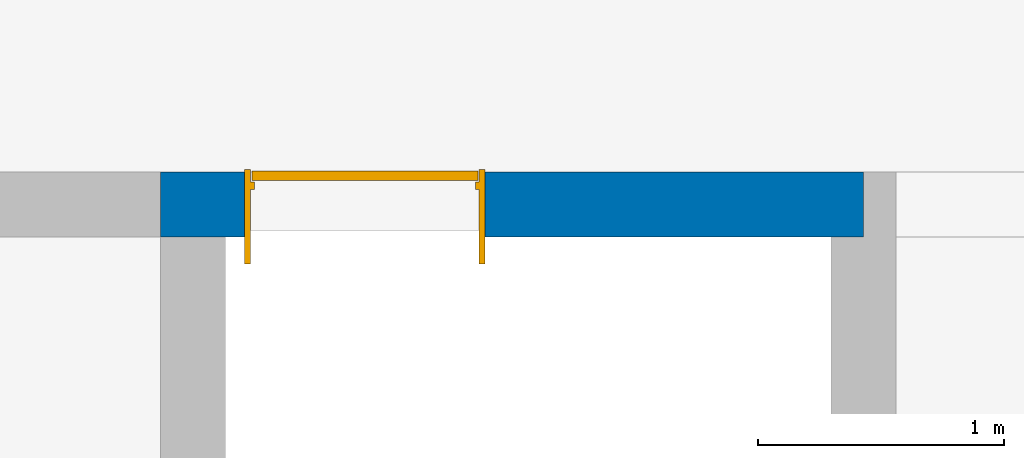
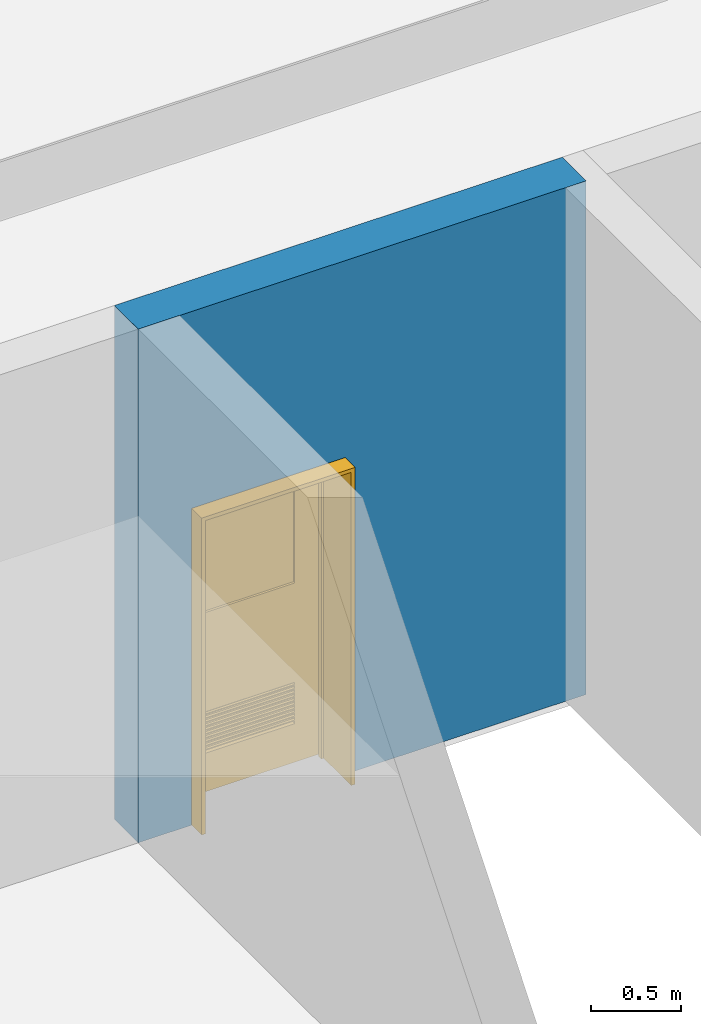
# One storey, part 4 of 11: 1 door, 1 wall, 1 opening.
"""IFC4X3 building model written with IfcOpenShell, lengths in millimetres."""

from ifc_helpers import new_model, entity, si_unit, converted_unit, derived_unit, direction, frame, frame_2d, origin, place, context, subcontext, project, spatial, rectangle, extrude, faceted_brep, source, transform, mapped, material, layer, layer_set, constituent, constituent_set, type_object, type_shapes, element, fill, save


model = new_model("IFC4X3")

# Units and contexts
model_context = context("Model", 3, precision=0.01, world=origin(), true_north=direction((6.12303176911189e-17, 1.0)))
body_context = subcontext(model_context, "Body", "Model", "MODEL_VIEW")
ifc_project = project(units=[si_unit("LENGTHUNIT", "METRE", prefix="MILLI"), si_unit("AREAUNIT", "SQUARE_METRE"), si_unit("VOLUMEUNIT", "CUBIC_METRE"), converted_unit("PLANEANGLEUNIT", "DEGREE", entity("IfcPlaneAngleMeasure", 0.0174532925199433), si_unit("PLANEANGLEUNIT", "RADIAN"), dimensions=[0, 0, 0, 0, 0, 0, 0]), si_unit("MASSUNIT", "GRAM", prefix="KILO"), derived_unit("MASSDENSITYUNIT", [(si_unit("MASSUNIT", "GRAM", prefix="KILO"), 1), (si_unit("LENGTHUNIT", "METRE"), -3)]), derived_unit("IONCONCENTRATIONUNIT", [(si_unit("MASSUNIT", "GRAM", prefix="KILO"), 1), (si_unit("LENGTHUNIT", "METRE"), -3)]), derived_unit("MOMENTOFINERTIAUNIT", [(si_unit("LENGTHUNIT", "METRE"), 4)]), si_unit("TIMEUNIT", "SECOND"), si_unit("FREQUENCYUNIT", "HERTZ"), si_unit("THERMODYNAMICTEMPERATUREUNIT", "DEGREE_CELSIUS"), derived_unit("THERMALTRANSMITTANCEUNIT", [(si_unit("MASSUNIT", "GRAM", prefix="KILO"), 1), (si_unit("THERMODYNAMICTEMPERATUREUNIT", "KELVIN"), -1), (si_unit("TIMEUNIT", "SECOND"), -3)]), derived_unit("THERMALCONDUCTANCEUNIT", [(si_unit("MASSUNIT", "GRAM", prefix="KILO"), 1), (si_unit("THERMODYNAMICTEMPERATUREUNIT", "KELVIN"), -1), (si_unit("TIMEUNIT", "SECOND"), -3), (si_unit("LENGTHUNIT", "METRE"), 1)]), derived_unit("VOLUMETRICFLOWRATEUNIT", [(si_unit("LENGTHUNIT", "METRE", prefix="DECI"), 3), (si_unit("TIMEUNIT", "SECOND"), -1)]), derived_unit("MASSFLOWRATEUNIT", [(si_unit("MASSUNIT", "GRAM", prefix="KILO"), 1), (si_unit("TIMEUNIT", "SECOND"), -1)]), derived_unit("ROTATIONALFREQUENCYUNIT", [(si_unit("TIMEUNIT", "SECOND"), -1)]), si_unit("ELECTRICCURRENTUNIT", "AMPERE"), si_unit("ELECTRICVOLTAGEUNIT", "VOLT"), si_unit("POWERUNIT", "WATT"), si_unit("FORCEUNIT", "NEWTON", prefix="KILO"), si_unit("ILLUMINANCEUNIT", "LUX"), si_unit("LUMINOUSFLUXUNIT", "LUMEN"), si_unit("LUMINOUSINTENSITYUNIT", "CANDELA"), si_unit("ENERGYUNIT", "JOULE"), derived_unit("USERDEFINED", [(si_unit("MASSUNIT", "GRAM", prefix="KILO"), -1), (si_unit("LENGTHUNIT", "METRE"), -2), (si_unit("TIMEUNIT", "SECOND"), 3), (si_unit("LUMINOUSFLUXUNIT", "LUMEN"), 1)]), derived_unit("USERDEFINED", [(si_unit("MASSUNIT", "GRAM", prefix="KILO"), 1), (si_unit("TIMEUNIT", "SECOND"), -3), (si_unit("LENGTHUNIT", "METRE"), 3), (si_unit("ELECTRICCURRENTUNIT", "AMPERE"), -2)]), derived_unit("SOUNDPOWERUNIT", [(si_unit("MASSUNIT", "GRAM", prefix="KILO"), 1), (si_unit("TIMEUNIT", "SECOND"), -3), (si_unit("LENGTHUNIT", "METRE"), 2)]), derived_unit("SOUNDPRESSUREUNIT", [(si_unit("MASSUNIT", "GRAM", prefix="KILO"), 1), (si_unit("LENGTHUNIT", "METRE"), -1), (si_unit("TIMEUNIT", "SECOND"), -2)]), derived_unit("LINEARVELOCITYUNIT", [(si_unit("LENGTHUNIT", "METRE"), 1), (si_unit("TIMEUNIT", "SECOND"), -1)]), si_unit("PRESSUREUNIT", "PASCAL"), derived_unit("USERDEFINED", [(si_unit("MASSUNIT", "GRAM", prefix="KILO"), 1), (si_unit("LENGTHUNIT", "METRE"), -2), (si_unit("TIMEUNIT", "SECOND"), -2)]), derived_unit("LINEARFORCEUNIT", [(si_unit("MASSUNIT", "GRAM", prefix="KILO"), 1), (si_unit("TIMEUNIT", "SECOND"), -2)]), derived_unit("PLANARFORCEUNIT", [(si_unit("MASSUNIT", "GRAM", prefix="KILO"), 1), (si_unit("LENGTHUNIT", "METRE"), -1), (si_unit("TIMEUNIT", "SECOND"), -2)]), derived_unit("SPECIFICHEATCAPACITYUNIT", [(si_unit("THERMODYNAMICTEMPERATUREUNIT", "KELVIN"), -1), (si_unit("LENGTHUNIT", "METRE"), 2), (si_unit("TIMEUNIT", "SECOND"), -2)]), derived_unit("HEATFLUXDENSITYUNIT", [(si_unit("MASSUNIT", "GRAM", prefix="KILO"), 1), (si_unit("TIMEUNIT", "SECOND"), -3)]), derived_unit("HEATINGVALUEUNIT", [(si_unit("LENGTHUNIT", "METRE"), 2), (si_unit("TIMEUNIT", "SECOND"), -2)]), derived_unit("VAPORPERMEABILITYUNIT", [(si_unit("LENGTHUNIT", "METRE"), -1), (si_unit("TIMEUNIT", "SECOND"), 1)]), derived_unit("DYNAMICVISCOSITYUNIT", [(si_unit("MASSUNIT", "GRAM", prefix="KILO"), 1), (si_unit("TIMEUNIT", "SECOND"), -1), (si_unit("LENGTHUNIT", "METRE"), -1)]), derived_unit("THERMALEXPANSIONCOEFFICIENTUNIT", [(si_unit("THERMODYNAMICTEMPERATUREUNIT", "KELVIN"), -1)]), derived_unit("MODULUSOFELASTICITYUNIT", [(si_unit("MASSUNIT", "GRAM", prefix="KILO"), 1), (si_unit("LENGTHUNIT", "METRE"), -1), (si_unit("TIMEUNIT", "SECOND"), -2)]), derived_unit("ISOTHERMALMOISTURECAPACITYUNIT", [(si_unit("MASSUNIT", "GRAM", prefix="KILO"), -1), (si_unit("LENGTHUNIT", "METRE"), 3)]), derived_unit("MOISTUREDIFFUSIVITYUNIT", [(si_unit("TIMEUNIT", "SECOND"), -1), (si_unit("LENGTHUNIT", "METRE"), 2)]), derived_unit("AREADENSITYUNIT", [(si_unit("MASSUNIT", "GRAM", prefix="KILO"), 1), (si_unit("LENGTHUNIT", "METRE"), 2)]), derived_unit("MASSPERLENGTHUNIT", [(si_unit("MASSUNIT", "GRAM", prefix="KILO"), 1), (si_unit("LENGTHUNIT", "METRE"), -1)]), derived_unit("THERMALRESISTANCEUNIT", [(si_unit("MASSUNIT", "GRAM", prefix="KILO"), -1), (si_unit("TIMEUNIT", "SECOND"), 3), (si_unit("THERMODYNAMICTEMPERATUREUNIT", "KELVIN"), 1)]), derived_unit("ACCELERATIONUNIT", [(si_unit("LENGTHUNIT", "METRE"), 1), (si_unit("TIMEUNIT", "SECOND"), -2)]), derived_unit("ANGULARVELOCITYUNIT", [(si_unit("TIMEUNIT", "SECOND"), -1), (si_unit("PLANEANGLEUNIT", "RADIAN"), 1)]), derived_unit("LINEARSTIFFNESSUNIT", [(si_unit("MASSUNIT", "GRAM", prefix="KILO"), 1), (si_unit("TIMEUNIT", "SECOND"), -2)]), derived_unit("WARPINGCONSTANTUNIT", [(si_unit("LENGTHUNIT", "METRE"), 6)]), derived_unit("LINEARMOMENTUNIT", [(si_unit("MASSUNIT", "GRAM", prefix="KILO"), 1), (si_unit("LENGTHUNIT", "METRE"), 1), (si_unit("TIMEUNIT", "SECOND"), -2)]), derived_unit("TORQUEUNIT", [(si_unit("MASSUNIT", "GRAM", prefix="KILO"), 1), (si_unit("LENGTHUNIT", "METRE"), 2), (si_unit("TIMEUNIT", "SECOND"), -2)])], contexts=[model_context])

# Site, building, storey
site_placement = place(None, origin())
site = spatial("IfcSite", under=ifc_project, at=site_placement, Name="Default", CompositionType="ELEMENT")
building_placement = place(site_placement, origin())
building = spatial("IfcBuilding", under=site, at=building_placement, Name="事務所ビル", CompositionType="ELEMENT")
storey_placement = place(building_placement, frame((0.0, 0.0, 8000.0)))
storey = spatial("IfcBuildingStorey", under=building, at=storey_placement, Name="3FL", CompositionType="ELEMENT", Elevation=8000.0)

# Wall, opening, door
ifc_material_1 = material(Name="せっこうボード", Category="一般")
ifc_layer_1 = layer(ifc_material_1, 15.0, Name="せっこうボード", Category="一般")
ifc_material_2 = material(Name="合板", Category="一般")
ifc_layer_2 = layer(ifc_material_2, 12.0, Name="合板", Category="一般")
ifc_material_3 = material(Name="天然木材", Category="一般")
ifc_layer_3 = layer(ifc_material_3, 210.0, Name="天然木材", Category="一般")
ifc_layer_4 = layer(ifc_material_2, 12.0, Name="合板", Category="一般")
ifc_layer_5 = layer(ifc_material_1, 15.0, Name="せっこうボード", Category="一般")
ifc_layer_set = layer_set([ifc_layer_1, ifc_layer_2, ifc_layer_3, ifc_layer_4, ifc_layer_5], Name="標準壁:GB-R15_構造用合板12_木210_構造用合板12_GB-R15")
wall_type = type_object("IfcWallType", Name="標準壁:GB-R15_構造用合板12_木210_構造用合板12_GB-R15", PredefinedType="STANDARD", material=ifc_layer_set)
wall_placement = place(storey_placement, frame((18978.0, 5460.0, 0.0)))
wall = element("IfcWall", 1, at=wall_placement, inside=storey, type_object=wall_type, material=ifc_layer_set, Name="標準壁:GB-R15_構造用合板12_木210_構造用合板12_GB-R15", ObjectType="標準壁:GB-R15_構造用合板12_木210_構造用合板12_GB-R15", PredefinedType="NOTDEFINED", context=body_context, shape_type="SweptSolid", body=[
    extrude(rectangle(XDim=2862.00000000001, YDim=264.000000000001, at=frame_2d((1431.0, 2.55795384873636e-13), x_axis=(-1.0, 0.0))), origin(), (0.0, 0.0, 1.0), 3470.0),
])
opening_placement = place(wall_placement, frame((342.0, -132.0, 0.0)))
opening = element("IfcOpeningElement", 2, at=opening_placement, cuts=wall, Name="鋼製_一般枠_片開き 1:鋼製_一般枠_片開き 1:1", PredefinedType="OPENING", context=body_context, shape_type="SweptSolid", body=[
    extrude(rectangle(XDim=2140.0, YDim=979.999999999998, at=frame_2d((1070.0, 490.0), x_axis=(-1.0, 0.0))), frame((0.0, 0.0, 0.0), z_axis=(0.0, 1.0, 0.0), x_axis=(0.0, 0.0, 1.0)), (0.0, 0.0, 1.0), 264.0),
])
ifc_material_4 = material(Name="金属 - アルミニウム", Category="未設定")
ifc_constituent_1 = constituent(ifc_material_4, Name="金属 - アルミニウム", Category="未設定")
ifc_material_5 = material(Name="塗装 - 白", Category="未設定")
ifc_constituent_2 = constituent(ifc_material_5, Name="塗装 - 白", Category="未設定")
ifc_material_6 = material(Name="ガラス", Category="ガラス")
ifc_constituent_3 = constituent(ifc_material_6, Name="ガラス", Category="ガラス")
ifc_constituent_set_1 = constituent_set(constituents=[ifc_constituent_1, ifc_constituent_2, ifc_constituent_3])
ifc_constituent_4 = constituent(ifc_material_4, Name="金属 - アルミニウム", Category="未設定")
ifc_constituent_5 = constituent(ifc_material_5, Name="パネル", Category="未設定")
ifc_constituent_6 = constituent(ifc_material_6, Name="ガラス", Category="ガラス")
ifc_constituent_7 = constituent(ifc_material_4, Name="フレーム/マリオン", Category="未設定")
ifc_constituent_set_2 = constituent_set(constituents=[ifc_constituent_4, ifc_constituent_5, ifc_constituent_6, ifc_constituent_7])
door_type = type_object("IfcDoorType", Name="鋼製_一般枠_片開き 1:鋼製_一般枠_片開き 1", OperationType="SINGLE_SWING_LEFT", ParameterTakesPrecedence=False, PredefinedType="DOOR", material=ifc_constituent_set_2)
shared_shape = source(origin(), body_context, "Body", "Brep", [
    faceted_brep([(790.0, 269.0, 493.333333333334), (790.0, 269.0, 498.333333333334), (790.0, 239.0, 513.333333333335), (790.0, 229.0, 508.333333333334), (790.0, 229.0, 503.333333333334), (790.0, 239.0, 508.333333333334), (190.0, 269.0, 493.333333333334), (190.0, 239.0, 508.333333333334), (190.0, 229.0, 503.333333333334), (190.0, 229.0, 508.333333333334), (190.0, 239.0, 513.333333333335), (190.0, 269.0, 498.333333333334)], [[[0, 1, 2, 3, 4, 5]], [[6, 7, 8, 9, 10, 11]], [[5, 7, 6, 0]], [[4, 8, 7, 5]], [[3, 9, 8, 4]], [[2, 10, 9, 3]], [[1, 11, 10, 2]], [[0, 6, 11, 1]]]),
    faceted_brep([(790.0, 269.0, 466.666666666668), (790.0, 269.0, 471.666666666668), (790.0, 239.0, 486.666666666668), (790.0, 229.0, 481.666666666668), (790.0, 229.0, 476.666666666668), (790.0, 239.0, 481.666666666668), (190.0, 269.0, 466.666666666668), (190.0, 239.0, 481.666666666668), (190.0, 229.0, 476.666666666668), (190.0, 229.0, 481.666666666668), (190.0, 239.0, 486.666666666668), (190.0, 269.0, 471.666666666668)], [[[0, 1, 2, 3, 4, 5]], [[6, 7, 8, 9, 10, 11]], [[5, 7, 6, 0]], [[4, 8, 7, 5]], [[3, 9, 8, 4]], [[2, 10, 9, 3]], [[1, 11, 10, 2]], [[0, 6, 11, 1]]]),
    faceted_brep([(790.0, 269.0, 440.0), (790.0, 269.0, 445.0), (790.0, 239.0, 460.0), (790.0, 229.0, 455.0), (790.0, 229.0, 450.0), (790.0, 239.0, 455.0), (190.0, 269.0, 440.0), (190.0, 239.0, 455.0), (190.0, 229.0, 450.0), (190.0, 229.0, 455.0), (190.0, 239.0, 460.0), (190.0, 269.0, 445.0)], [[[0, 1, 2, 3, 4, 5]], [[6, 7, 8, 9, 10, 11]], [[5, 7, 6, 0]], [[4, 8, 7, 5]], [[3, 9, 8, 4]], [[2, 10, 9, 3]], [[1, 11, 10, 2]], [[0, 6, 11, 1]]]),
    faceted_brep([(790.0, 269.0, 413.333333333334), (790.0, 269.0, 418.333333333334), (790.0, 239.0, 433.333333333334), (790.0, 229.0, 428.333333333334), (790.0, 229.0, 423.333333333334), (790.0, 239.0, 428.333333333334), (190.0, 269.0, 413.333333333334), (190.0, 239.0, 428.333333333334), (190.0, 229.0, 423.333333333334), (190.0, 229.0, 428.333333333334), (190.0, 239.0, 433.333333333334), (190.0, 269.0, 418.333333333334)], [[[0, 1, 2, 3, 4, 5]], [[6, 7, 8, 9, 10, 11]], [[5, 7, 6, 0]], [[4, 8, 7, 5]], [[3, 9, 8, 4]], [[2, 10, 9, 3]], [[1, 11, 10, 2]], [[0, 6, 11, 1]]]),
    faceted_brep([(790.0, 269.0, 386.666666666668), (790.0, 269.0, 391.666666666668), (790.0, 239.0, 406.666666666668), (790.0, 229.0, 401.666666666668), (790.0, 229.0, 396.666666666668), (790.0, 239.0, 401.666666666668), (190.0, 269.0, 386.666666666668), (190.0, 239.0, 401.666666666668), (190.0, 229.0, 396.666666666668), (190.0, 229.0, 401.666666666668), (190.0, 239.0, 406.666666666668), (190.0, 269.0, 391.666666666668)], [[[0, 1, 2, 3, 4, 5]], [[6, 7, 8, 9, 10, 11]], [[5, 7, 6, 0]], [[4, 8, 7, 5]], [[3, 9, 8, 4]], [[2, 10, 9, 3]], [[1, 11, 10, 2]], [[0, 6, 11, 1]]]),
    faceted_brep([(790.0, 269.0, 360.0), (790.0, 269.0, 365.0), (790.0, 239.0, 380.0), (790.0, 229.0, 375.0), (790.0, 229.0, 370.0), (790.0, 239.0, 375.0), (190.0, 269.0, 360.0), (190.0, 239.0, 375.0), (190.0, 229.0, 370.0), (190.0, 229.0, 375.0), (190.0, 239.0, 380.0), (190.0, 269.0, 365.0)], [[[0, 1, 2, 3, 4, 5]], [[6, 7, 8, 9, 10, 11]], [[5, 7, 6, 0]], [[4, 8, 7, 5]], [[3, 9, 8, 4]], [[2, 10, 9, 3]], [[1, 11, 10, 2]], [[0, 6, 11, 1]]]),
    faceted_brep([(790.0, 269.0, 333.333333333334), (790.0, 269.0, 338.333333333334), (790.0, 239.0, 353.333333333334), (790.0, 229.0, 348.333333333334), (790.0, 229.0, 343.333333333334), (790.0, 239.0, 348.333333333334), (190.0, 269.0, 333.333333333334), (190.0, 239.0, 348.333333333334), (190.0, 229.0, 343.333333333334), (190.0, 229.0, 348.333333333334), (190.0, 239.0, 353.333333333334), (190.0, 269.0, 338.333333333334)], [[[0, 1, 2, 3, 4, 5]], [[6, 7, 8, 9, 10, 11]], [[5, 7, 6, 0]], [[4, 8, 7, 5]], [[3, 9, 8, 4]], [[2, 10, 9, 3]], [[1, 11, 10, 2]], [[0, 6, 11, 1]]]),
    faceted_brep([(790.0, 269.0, 306.666666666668), (790.0, 269.0, 311.666666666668), (790.0, 239.0, 326.666666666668), (790.0, 229.0, 321.666666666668), (790.0, 229.0, 316.666666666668), (790.0, 239.0, 321.666666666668), (190.0, 269.0, 306.666666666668), (190.0, 239.0, 321.666666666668), (190.0, 229.0, 316.666666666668), (190.0, 229.0, 321.666666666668), (190.0, 239.0, 326.666666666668), (190.0, 269.0, 311.666666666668)], [[[0, 1, 2, 3, 4, 5]], [[6, 7, 8, 9, 10, 11]], [[5, 7, 6, 0]], [[4, 8, 7, 5]], [[3, 9, 8, 4]], [[2, 10, 9, 3]], [[1, 11, 10, 2]], [[0, 6, 11, 1]]]),
    faceted_brep([(790.0, 269.0, 520.0), (790.0, 269.0, 525.0), (790.0, 239.0, 540.0), (790.0, 229.0, 535.0), (790.0, 229.0, 530.0), (790.0, 239.0, 535.0), (190.0, 269.0, 520.0), (190.0, 239.0, 535.0), (190.0, 229.0, 530.0), (190.0, 229.0, 535.0), (190.0, 239.0, 540.0), (190.0, 269.0, 525.0)], [[[0, 1, 2, 3, 4, 5]], [[6, 7, 8, 9, 10, 11]], [[5, 7, 6, 0]], [[4, 8, 7, 5]], [[3, 9, 8, 4]], [[2, 10, 9, 3]], [[1, 11, 10, 2]], [[0, 6, 11, 1]]]),
    faceted_brep([(790.0, 269.0, 280.0), (790.0, 269.0, 285.0), (790.0, 239.0, 300.0), (790.0, 229.0, 295.0), (790.0, 229.0, 290.0), (790.0, 239.0, 295.0), (190.0, 269.0, 280.0), (190.0, 239.0, 295.0), (190.0, 229.0, 290.0), (190.0, 229.0, 295.0), (190.0, 239.0, 300.0), (190.0, 269.0, 285.0)], [[[0, 1, 2, 3, 4, 5]], [[6, 7, 8, 9, 10, 11]], [[5, 7, 6, 0]], [[4, 8, 7, 5]], [[3, 9, 8, 4]], [[2, 10, 9, 3]], [[1, 11, 10, 2]], [[0, 6, 11, 1]]]),
    faceted_brep([(800.0, 269.0, 260.0), (180.0, 269.0, 260.0), (180.0, 269.0, 560.0), (800.0, 269.0, 560.0), (790.0, 269.0, 270.0), (790.0, 269.0, 550.0), (190.0, 269.0, 550.0), (190.0, 269.0, 270.0), (800.0, 229.0, 260.0), (800.0, 229.0, 560.0), (180.0, 229.0, 560.0), (180.0, 229.0, 260.0), (790.0, 229.0, 270.0), (190.0, 229.0, 270.0), (190.0, 229.0, 550.0), (790.0, 229.0, 550.0)], [[[0, 1, 2, 3], [4, 5, 6, 7]], [[8, 9, 10, 11], [12, 13, 14, 15]], [[3, 9, 8, 0]], [[2, 10, 9, 3]], [[1, 11, 10, 2]], [[0, 8, 11, 1]], [[7, 13, 12, 4]], [[6, 14, 13, 7]], [[5, 15, 14, 6]], [[4, 12, 15, 5]]]),
    faceted_brep([(800.0, 229.0, 1210.0), (800.0, 229.0, 1960.0), (180.0, 229.0, 1960.0), (180.0, 229.0, 1210.0), (790.0, 229.0, 1220.0), (190.0, 229.0, 1220.0), (190.0, 229.0, 1950.0), (790.0, 229.0, 1950.0), (800.0, 269.0, 1210.0), (180.0, 269.0, 1210.0), (180.0, 269.0, 1960.0), (800.0, 269.0, 1960.0), (790.0, 269.0, 1220.0), (790.0, 269.0, 1950.0), (190.0, 269.0, 1950.0), (190.0, 269.0, 1220.0)], [[[0, 1, 2, 3], [4, 5, 6, 7]], [[8, 9, 10, 11], [12, 13, 14, 15]], [[1, 0, 8, 11]], [[2, 1, 11, 10]], [[3, 2, 10, 9]], [[0, 3, 9, 8]], [[5, 4, 12, 15]], [[6, 5, 15, 14]], [[7, 6, 14, 13]], [[4, 7, 13, 12]]]),
    faceted_brep([(800.0, 244.0, 1210.0), (800.0, 244.0, 1960.0), (180.0, 244.0, 1960.0), (180.0, 244.0, 1210.0), (800.0, 249.0, 1210.0), (180.0, 249.0, 1210.0), (180.0, 249.0, 1960.0), (800.0, 249.0, 1960.0)], [[[0, 1, 2, 3]], [[4, 5, 6, 7]], [[1, 0, 4, 7]], [[2, 1, 7, 6]], [[3, 2, 6, 5]], [[0, 3, 5, 4]]]),
    faceted_brep([(950.0, 229.0, 10.0), (950.0, 229.0, 2110.0), (30.0, 229.0, 2110.0), (30.0, 229.0, 10.0), (800.0, 229.0, 260.0), (180.0, 229.0, 260.0), (180.0, 229.0, 560.0), (800.0, 229.0, 560.0), (800.0, 229.0, 1210.0), (180.0, 229.0, 1210.0), (180.0, 229.0, 1960.0), (800.0, 229.0, 1960.0), (950.0, 269.0, 10.0), (30.0, 269.0, 10.0), (30.0, 269.0, 2110.0), (950.0, 269.0, 2110.0), (800.0, 269.0, 260.0), (800.0, 269.0, 560.0), (180.0, 269.0, 560.0), (180.0, 269.0, 260.0), (800.0, 269.0, 1210.0), (800.0, 269.0, 1960.0), (180.0, 269.0, 1960.0), (180.0, 269.0, 1210.0)], [[[0, 1, 2, 3], [4, 5, 6, 7], [8, 9, 10, 11]], [[12, 13, 14, 15], [16, 17, 18, 19], [20, 21, 22, 23]], [[1, 0, 12, 15]], [[2, 1, 15, 14]], [[3, 2, 14, 13]], [[0, 3, 13, 12]], [[5, 4, 16, 19]], [[6, 5, 19, 18]], [[7, 6, 18, 17]], [[4, 7, 17, 16]], [[9, 8, 20, 23]], [[10, 9, 23, 22]], [[11, 10, 22, 21]], [[8, 11, 21, 20]]]),
    faceted_brep([(955.0, 274.0, 0.0), (980.0, 274.0, 0.0), (980.0, -110.0, 0.0), (955.0, -110.0, 0.0), (955.0, 194.0, 0.0), (940.0, 194.0, 0.0), (940.0, 224.0, 0.0), (955.0, 224.0, 0.0), (955.0, 274.0, 2115.0), (25.0, 274.0, 2115.0), (25.0, 274.0, 0.0), (0.0, 274.0, 0.0), (0.0, 274.0, 2140.0), (980.0, 274.0, 2140.0), (980.0, -110.0, 2140.0), (0.0, -110.0, 2140.0), (0.0, -110.0, 0.0), (25.0, -110.0, 0.0), (25.0, -110.0, 2115.0), (955.0, -110.0, 2115.0), (955.0, 194.0, 2115.0), (25.0, 194.0, 2115.0), (25.0, 194.0, 0.0), (40.0, 194.0, 0.0), (40.0, 194.0, 2100.0), (940.0, 194.0, 2100.0), (940.0, 224.0, 2100.0), (40.0, 224.0, 2100.0), (40.0, 224.0, 0.0), (25.0, 224.0, 0.0), (25.0, 224.0, 2115.0), (955.0, 224.0, 2115.0)], [[[0, 1, 2, 3, 4, 5, 6, 7]], [[1, 0, 8, 9, 10, 11, 12, 13]], [[2, 1, 13, 14]], [[3, 2, 14, 15, 16, 17, 18, 19]], [[4, 3, 19, 20]], [[5, 4, 20, 21, 22, 23, 24, 25]], [[6, 5, 25, 26]], [[7, 6, 26, 27, 28, 29, 30, 31]], [[0, 7, 31, 8]], [[14, 13, 12, 15]], [[20, 19, 18, 21]], [[26, 25, 24, 27]], [[8, 31, 30, 9]], [[10, 29, 28, 23, 22, 17, 16, 11]], [[15, 12, 11, 16]], [[21, 18, 17, 22]], [[27, 24, 23, 28]], [[9, 30, 29, 10]]]),
])
type_shapes(door_type, [shared_shape])
door_placement = place(opening_placement, origin())
door = element("IfcDoor", 3, at=door_placement, inside=storey, type_object=door_type, material=ifc_constituent_set_1, Name="鋼製_一般枠_片開き 1:鋼製_一般枠_片開き 1", ObjectType="鋼製_一般枠_片開き 1:鋼製_一般枠_片開き 1", OperationType="SINGLE_SWING_LEFT", OverallHeight=2140.0, OverallWidth=980.000000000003, PredefinedType="DOOR", context=body_context, shape_type="MappedRepresentation", body=[
    mapped(shared_shape, transform((0.0, 0.0, 0.0), scale=1.0)),
])
fill(opening, door)

save(model, "model.ifc")
